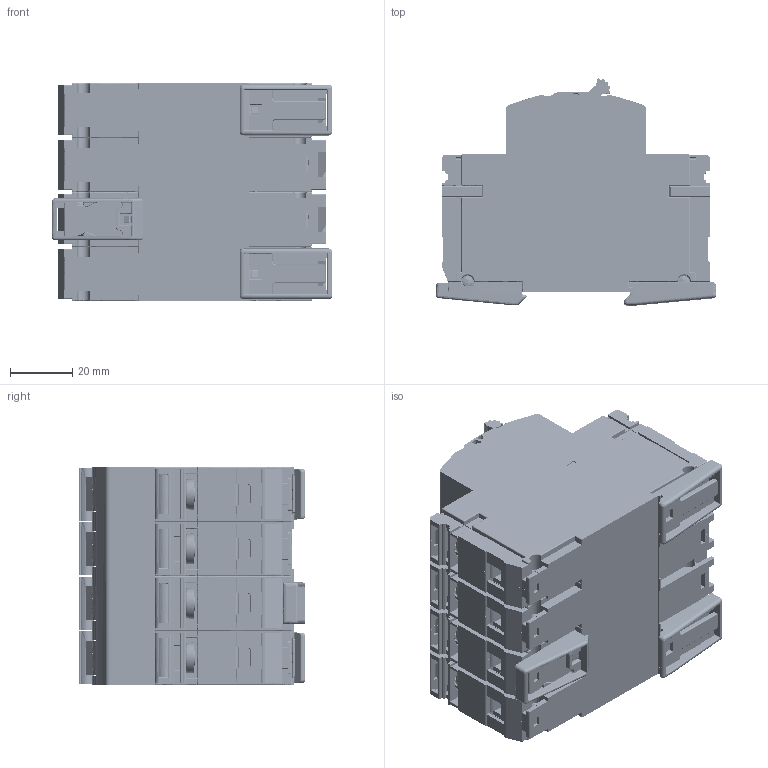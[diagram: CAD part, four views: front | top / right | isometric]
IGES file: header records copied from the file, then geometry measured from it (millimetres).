
Start section: SolidWorks IGES file using analytic representation for surfaces
Global section: file name: U:\14_RD\05_Technical_office\04_Office\Hrdinova\3D modely - IGES\Minia\APN-4.IGS; native system: SolidWorks 2011; preprocessor: SolidWorks 2011; author: adhrja3; date: 170615.071039; units: millimetre
Bounding box: 90.21 x 72.92 x 70.13 mm (x, y, z)
Surface area: 60886.4 mm2 (no closed solid volume)
Topology: 0 solids, 0 shells, 6154 faces, 44664 edges, 44503 vertices
Faces by surface type: bspline 4160, revolution 1994
